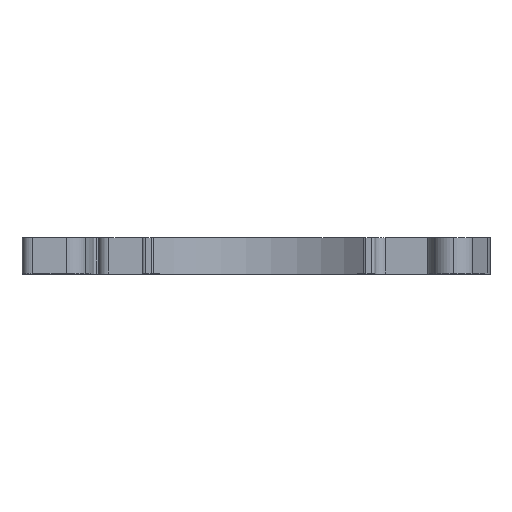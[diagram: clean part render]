
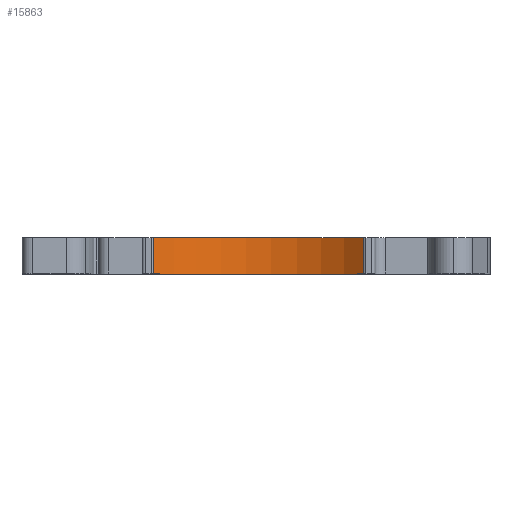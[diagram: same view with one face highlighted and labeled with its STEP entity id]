
A CAD part, top view. The second image highlights one B-rep face of the part: STEP entity #15863.
In plain terms, the highlighted cylindrical face has radius 15 mm (diameter 30 mm), a partial arc.
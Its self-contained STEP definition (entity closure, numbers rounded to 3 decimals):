
#631=CARTESIAN_POINT('',(22.752,3.5,7.25));
#632=DIRECTION('',(0.,1.,0.));
#633=DIRECTION('',(0.674,0.,-0.739));
#634=AXIS2_PLACEMENT_3D('',#631,#632,#633);
#957=CARTESIAN_POINT('',(22.752,0.,7.25));
#958=DIRECTION('',(0.,-1.,0.));
#959=DIRECTION('',(-0.674,0.,-0.739));
#960=AXIS2_PLACEMENT_3D('',#957,#958,#959);
#5670=DIRECTION('',(0.,-1.,0.));
#5671=VECTOR('',#5670,3.5);
#5672=CARTESIAN_POINT('',(12.639,3.5,-3.828));
#5673=LINE('',#5672,#5671);
#5674=DIRECTION('',(0.,-1.,0.));
#5675=VECTOR('',#5674,3.5);
#5676=CARTESIAN_POINT('',(32.865,3.5,-3.829));
#5677=LINE('',#5676,#5675);
#6808=CARTESIAN_POINT('',(32.864,3.5,-3.829));
#6809=VERTEX_POINT('',#6808);
#6810=CARTESIAN_POINT('',(12.639,3.5,-3.828));
#6811=VERTEX_POINT('',#6810);
#7018=CARTESIAN_POINT('',(12.639,0.,-3.829));
#7019=VERTEX_POINT('',#7018);
#7020=CARTESIAN_POINT('',(32.865,0.,-3.828));
#7021=VERTEX_POINT('',#7020);
#15851=CARTESIAN_POINT('',(22.752,-0.07,7.25));
#15852=DIRECTION('',(0.,1.,0.));
#15853=DIRECTION('',(0.,0.,1.));
#15854=AXIS2_PLACEMENT_3D('',#15851,#15852,#15853);
#15855=CYLINDRICAL_SURFACE('',#15854,15.);
#15856=ORIENTED_EDGE('',*,*,#8909,.F.);
#15858=ORIENTED_EDGE('',*,*,#15857,.T.);
#15859=ORIENTED_EDGE('',*,*,#9180,.F.);
#15860=ORIENTED_EDGE('',*,*,#15845,.F.);
#15861=EDGE_LOOP('',(#15856,#15858,#15859,#15860));
#15862=FACE_OUTER_BOUND('',#15861,.F.);
#635=CIRCLE('',#634,15.);
#961=CIRCLE('',#960,15.);
#8909=EDGE_CURVE('',#6809,#6811,#635,.T.);
#9180=EDGE_CURVE('',#7019,#7021,#961,.T.);
#15845=EDGE_CURVE('',#6811,#7019,#5673,.T.);
#15857=EDGE_CURVE('',#6809,#7021,#5677,.T.);
#15863=ADVANCED_FACE('',(#15862),#15855,.F.);
